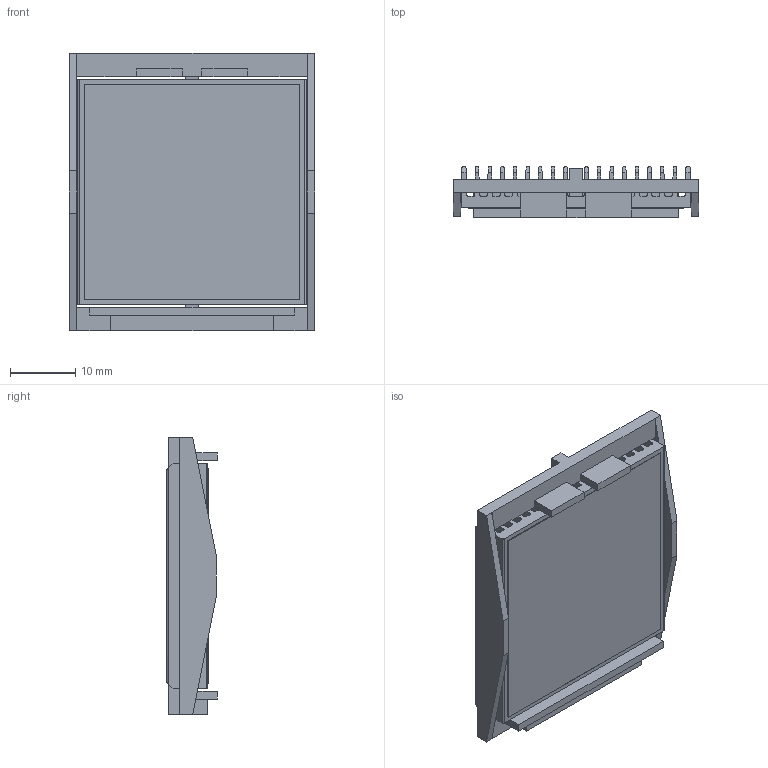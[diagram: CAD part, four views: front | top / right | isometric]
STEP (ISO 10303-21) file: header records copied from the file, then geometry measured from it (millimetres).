
FILE_DESCRIPTION (( 'STEP AP214' ), '1' );
FILE_NAME ('INL35001-6-1.7BU.STEP', '2023-02-23T23:53:13', ( '' ), ( '' ), 'SwSTEP 2.0', 'SolidWorks 2020', '' );
FILE_SCHEMA (( 'AUTOMOTIVE_DESIGN' ));
Length unit declared in the file: millimetre
Products named in the file (1): INL35001-6-1.7BU
Bounding box: 37.6 x 7.8 x 42.4 mm (x, y, z)
Volume: 5335.3 mm3; surface area: 12605 mm2
Topology: 3 solids, 3 shells, 200 faces, 584 edges, 388 vertices
Faces by surface type: plane 146, cylinder 54
Entity records: 8804 total; most frequent: CARTESIAN_POINT 1281, ORIENTED_EDGE 1168, DIRECTION 1022, EDGE_CURVE 584, LINE 476, VECTOR 476, VERTEX_POINT 388, AXIS2_PLACEMENT_3D 273
